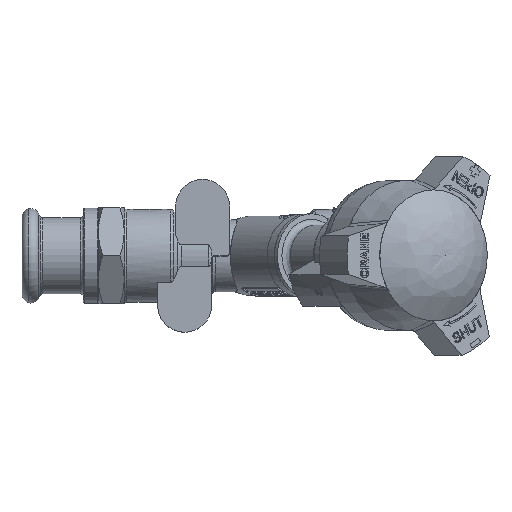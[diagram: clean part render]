
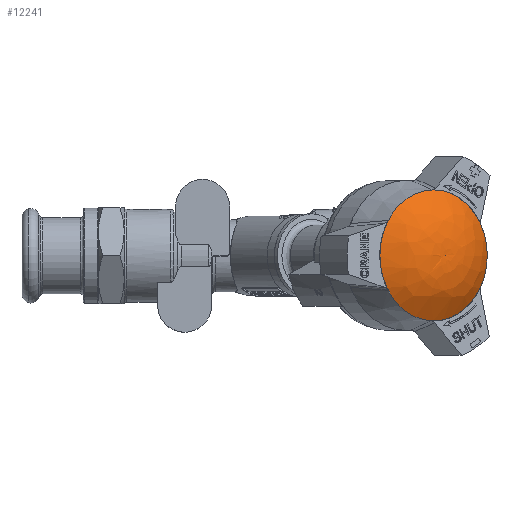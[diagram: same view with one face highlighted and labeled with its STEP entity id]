
A CAD part, top view. The second image highlights one B-rep face of the part: STEP entity #12241.
In plain terms, the highlighted free-form (B-spline) face has degree [2, 2] with [5, 9] control points.
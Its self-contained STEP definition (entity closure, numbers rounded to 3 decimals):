
#12152=CARTESIAN_POINT('',(16.012,21.882,85.8));
#12153=VERTEX_POINT('',#12152);
#12154=CARTESIAN_POINT('',(15.919,0.,85.865));
#12155=DIRECTION('',(0.574,0.,0.819));
#12156=DIRECTION('',(0.004,1.,-0.003));
#12157=AXIS2_PLACEMENT_3D('',#12154,#12155,#12156);
#12158=CIRCLE('',#12157,21.883);
#12159=EDGE_CURVE('',#12153,#12153,#12158,.T.);
#12185=CARTESIAN_POINT('',(30.801,-0.169,50.343));
#12186=CARTESIAN_POINT('',(37.077,-0.163,61.131));
#12187=CARTESIAN_POINT('',(33.876,-0.114,73.195));
#12188=CARTESIAN_POINT('',(30.675,-0.064,85.259));
#12189=CARTESIAN_POINT('',(19.877,0.,91.518));
#12190=CARTESIAN_POINT('',(30.662,-32.734,50.44));
#12191=CARTESIAN_POINT('',(36.943,-31.681,61.225));
#12192=CARTESIAN_POINT('',(33.783,-22.091,73.261));
#12193=CARTESIAN_POINT('',(30.623,-12.5,85.296));
#12194=CARTESIAN_POINT('',(19.877,0.,91.518));
#12195=CARTESIAN_POINT('',(3.987,-32.565,69.118));
#12196=CARTESIAN_POINT('',(11.125,-31.518,79.303));
#12197=CARTESIAN_POINT('',(15.781,-21.977,85.866));
#12198=CARTESIAN_POINT('',(20.436,-12.435,92.429));
#12199=CARTESIAN_POINT('',(19.877,0.,91.518));
#12200=CARTESIAN_POINT('',(-22.689,-32.396,87.797));
#12201=CARTESIAN_POINT('',(-14.693,-31.355,97.381));
#12202=CARTESIAN_POINT('',(-2.222,-21.863,98.471));
#12203=CARTESIAN_POINT('',(10.25,-12.371,99.561));
#12204=CARTESIAN_POINT('',(19.877,0.,91.518));
#12205=CARTESIAN_POINT('',(-22.551,0.169,87.7));
#12206=CARTESIAN_POINT('',(-14.559,0.163,97.287));
#12207=CARTESIAN_POINT('',(-2.128,0.114,98.406));
#12208=CARTESIAN_POINT('',(10.303,0.064,99.524));
#12209=CARTESIAN_POINT('',(19.877,0.,91.518));
#12210=CARTESIAN_POINT('',(-22.413,32.734,87.603));
#12211=CARTESIAN_POINT('',(-14.426,31.681,97.194));
#12212=CARTESIAN_POINT('',(-2.035,22.091,98.341));
#12213=CARTESIAN_POINT('',(10.355,12.5,99.487));
#12214=CARTESIAN_POINT('',(19.877,0.,91.518));
#12215=CARTESIAN_POINT('',(4.263,32.565,68.925));
#12216=CARTESIAN_POINT('',(11.392,31.518,79.116));
#12217=CARTESIAN_POINT('',(15.967,21.977,85.735));
#12218=CARTESIAN_POINT('',(20.542,12.435,92.355));
#12219=CARTESIAN_POINT('',(19.877,0.,91.518));
#12220=CARTESIAN_POINT('',(30.939,32.396,50.246));
#12221=CARTESIAN_POINT('',(37.21,31.355,61.038));
#12222=CARTESIAN_POINT('',(33.969,21.863,73.13));
#12223=CARTESIAN_POINT('',(30.728,12.371,85.222));
#12224=CARTESIAN_POINT('',(19.877,0.,91.518));
#12225=CARTESIAN_POINT('',(30.801,-0.169,50.343));
#12226=CARTESIAN_POINT('',(37.077,-0.163,61.131));
#12227=CARTESIAN_POINT('',(33.876,-0.114,73.195));
#12228=CARTESIAN_POINT('',(30.675,-0.064,85.259));
#12229=CARTESIAN_POINT('',(19.877,0.,91.518));
#12237=(BOUNDED_SURFACE()B_SPLINE_SURFACE(2,2,((#12185,#12190,#12195,#12200,#12205,#12210,#12215,#12220,#12225),(#12186,#12191,#12196,#12201,#12206,#12211,#12216,#12221,#12226),(#12187,#12192,#12197,#12202,#12207,#12212,#12217,#12222,#12227),(#12188,#12193,#12198,#12203,#12208,#12213,#12218,#12223,#12228),(#12189,#12194,#12199,#12204,#12209,#12214,#12219,#12224,#12229)),.UNSPECIFIED.,.F.,.T.,.U.)B_SPLINE_SURFACE_WITH_KNOTS((3,2,3),(3,2,2,2,3),(0.084,0.87,1.656),(0.0,1.571,3.142,4.712,6.283),.UNSPECIFIED.)GEOMETRIC_REPRESENTATION_ITEM()RATIONAL_B_SPLINE_SURFACE(((1.0,0.707,1.0,0.707,1.0,0.707,1.0,0.707,1.0),(0.924,0.653,0.924,0.653,0.924,0.653,0.924,0.653,0.924),(1.0,0.707,1.0,0.707,1.0,0.707,1.0,0.707,1.0),(0.924,0.653,0.924,0.653,0.924,0.653,0.924,0.653,0.924),(1.0,0.707,1.0,0.707,1.0,0.707,1.0,0.707,1.0)))REPRESENTATION_ITEM('')SURFACE());
#12238=ORIENTED_EDGE('',*,*,#12159,.T.);
#12239=EDGE_LOOP('',(#12238));
#12240=FACE_OUTER_BOUND('',#12239,.T.);
#12241=ADVANCED_FACE('',(#12240),#12237,.T.);
